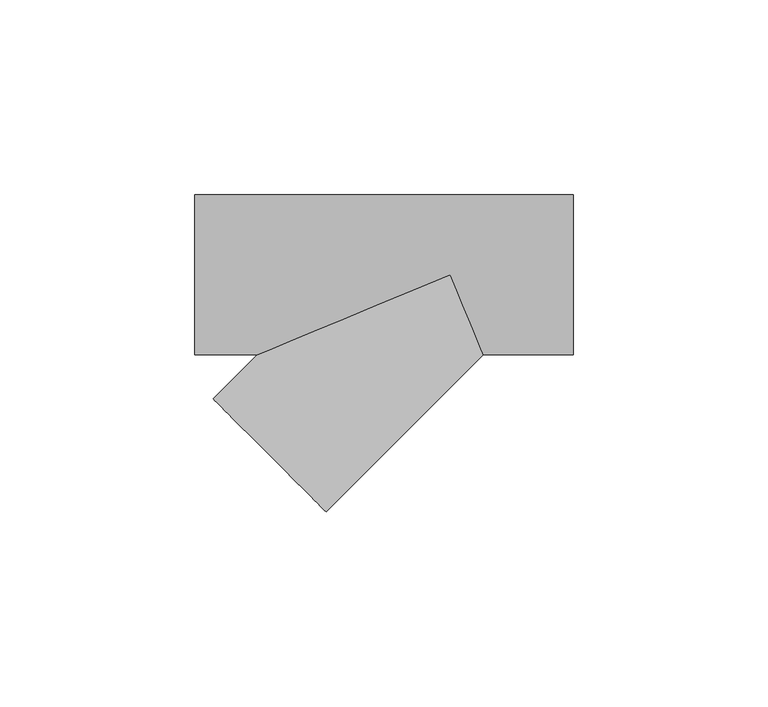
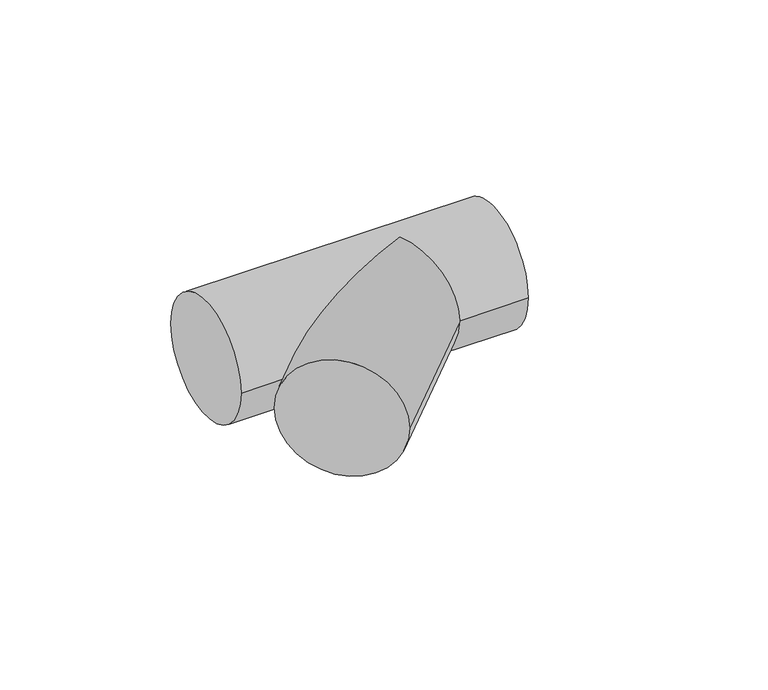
"""IFC4 building model written with IfcOpenShell, lengths in millimetres: pipe fitting geometry, 010513441 : Tê a 45º."""

from ifc_helpers import new_model, si_unit, frame, origin, place, context, project, spatial, circle_curve, ellipse_curve, source, transform, mapped, element, save
from ifc_brep_helpers import plane_surface, cylinder_surface, advanced_brep


def pipe_fitting_7ac536cc(model_context):
    return source(origin(), model_context, "Body", "AdvancedBrep", [
        advanced_brep(
        [(-65.5, -20.5, 0.0), (-65.5, 20.5, 0.0), (31.5, -20.5, 0.0), (31.5, 20.5, 0.0), (-49.491378, -20.5, 0.0), (0.0, 0.0, 20.5), (8.491378, -20.5, 0.0), (0.0, 0.0, -20.5), (-60.8111832, -31.8198052, 0.0), (-31.8198052, -60.8111832, 0.0)],
        [
            (0, 1, circle_curve(frame((-65.5, 0.0, 0.0), z_axis=(-1.0, 0.0, 0.0), x_axis=(0.0, 1.0, 0.0)), 20.5)),
            (1, 0, circle_curve(frame((-65.5, 0.0, 0.0), z_axis=(-1.0, 0.0, 0.0), x_axis=(0.0, 1.0, 0.0)), 20.5)),
            (2, 3, circle_curve(frame((31.5, 0.0, 0.0), z_axis=(1.0, 0.0, 0.0), x_axis=(0.0, 1.0, 0.0)), 20.5)),
            (3, 2, circle_curve(frame((31.5, 0.0, 0.0), z_axis=(1.0, 0.0, 0.0), x_axis=(0.0, 1.0, 0.0)), 20.5)),
            (0, 4),
            (4, 5, ellipse_curve(frame((0.0, 0.0, 0.0), z_axis=(-0.3826834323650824, 0.9238795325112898, 0.0), x_axis=(-0.9238795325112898, -0.38268343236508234, 0.0)), 53.5690816, 20.5)),
            (5, 6, ellipse_curve(frame((0.0, 0.0, 0.0), z_axis=(0.9238795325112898, 0.38268343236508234, 0.0), x_axis=(-0.3826834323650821, 0.9238795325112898, 0.0)), 22.1890401, 20.5)),
            (6, 2),
            (3, 1),
            (6, 7, ellipse_curve(frame((0.0, 0.0, 0.0), z_axis=(0.9238795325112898, 0.38268343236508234, 0.0), x_axis=(-0.3826834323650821, 0.9238795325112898, 0.0)), 22.1890401, 20.5)),
            (7, 4, ellipse_curve(frame((0.0, 0.0, 0.0), z_axis=(-0.3826834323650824, 0.9238795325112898, 0.0), x_axis=(-0.9238795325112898, -0.38268343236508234, 0.0)), 53.5690816, 20.5)),
            (8, 9, circle_curve(frame((-46.3154942, -46.3154942, 0.0), z_axis=(-0.7071067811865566, -0.7071067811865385, 0.0), x_axis=(0.7071067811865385, -0.7071067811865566, 0.0)), 20.5)),
            (9, 8, circle_curve(frame((-46.3154942, -46.3154942, 0.0), z_axis=(-0.7071067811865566, -0.7071067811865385, 0.0), x_axis=(0.7071067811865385, -0.7071067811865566, 0.0)), 20.5)),
            (9, 6),
            (4, 8),
        ],
        [
            plane_surface(frame((-65.5, 0.0, 0.0), z_axis=(-1.0, 0.0, 0.0), x_axis=(0.0, 0.0, 1.0))),
            plane_surface(frame((31.5, 0.0, 0.0), z_axis=(1.0, 0.0, 0.0), x_axis=(0.0, 0.0, 1.0))),
            cylinder_surface(frame((-65.5, 0.0, 0.0), z_axis=(-1.0, 0.0, 0.0), x_axis=(0.0, 1.0, 0.0)), 20.5),
            plane_surface(frame((-46.3154942, -46.3154942, 0.0), z_axis=(-0.7071067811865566, -0.7071067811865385, 0.0), x_axis=(0.0, 0.0, 1.0))),
            cylinder_surface(frame((0.0, 0.0, 0.0), z_axis=(0.7071067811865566, 0.7071067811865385, 0.0), x_axis=(0.7071067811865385, -0.7071067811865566, 0.0)), 20.5),
        ],
        [
            (0, [[1, 2]]),
            (1, [[3, 4]]),
            (2, [[-1, 5, 6, 7, 8, -4, 9]]),
            (2, [[-2, -9, -3, -8, 10, 11, -5]]),
            (3, [[12, 13]]),
            (4, [[-13, 14, -7, -6, 15]]),
            (4, [[-12, -15, -11, -10, -14]]),
        ],
    ),
    ])


if __name__ == "__main__":
    model = new_model("IFC4")
    model_context = context("Model", 3, world=origin())
    ifc_project = project(units=[si_unit("LENGTHUNIT", "METRE", prefix="MILLI")], contexts=[model_context])
    site = spatial("IfcSite", under=ifc_project)
    building = spatial("IfcBuilding", under=site)
    placement = place(None, origin())
    pipe_fitting_shape = pipe_fitting_7ac536cc(model_context)
    element("IfcPipeFitting", 1, ObjectType="010513441 : Tê a 45º", at=placement, inside=building, context=model_context, shape_type="MappedRepresentation", body=[
        mapped(pipe_fitting_shape, transform((0.0, 0.0, 0.0), x_axis=(1.0, 0.0, 0.0), y_axis=(0.0, 1.0, 0.0), z_axis=(0.0, 0.0, 1.0))),
    ])
    save(model, "model.ifc")
